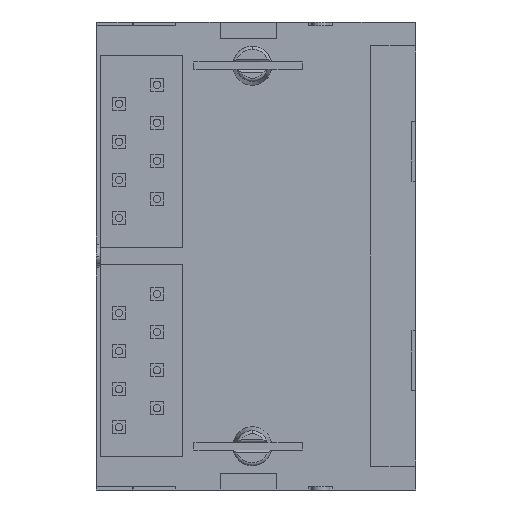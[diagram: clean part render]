
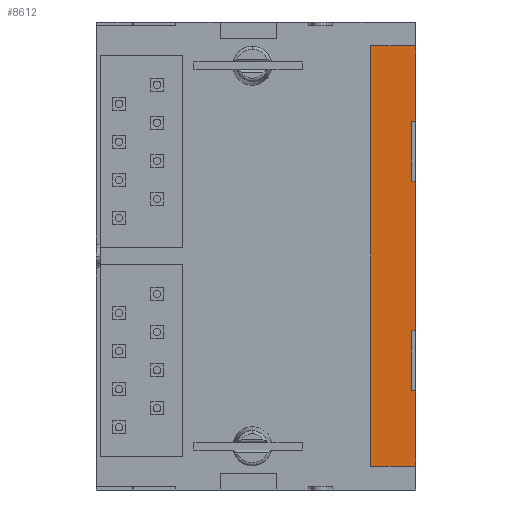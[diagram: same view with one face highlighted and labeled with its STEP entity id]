
A CAD part, front view. The second image highlights one B-rep face of the part: STEP entity #8612.
In plain terms, the highlighted planar face has unit normal (0, -1, 0).
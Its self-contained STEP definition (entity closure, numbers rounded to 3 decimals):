
#327 = EDGE_CURVE ( 'NONE', #3181, #2554, #5813, .T. ) ;
#352 = EDGE_CURVE ( 'NONE', #1021, #7065, #9004, .T. ) ;
#427 = VECTOR ( 'NONE', #8823, 1000. ) ;
#624 = VECTOR ( 'NONE', #8863, 1000. ) ;
#820 = ORIENTED_EDGE ( 'NONE', *, *, #352, .T. ) ;
#885 = DIRECTION ( 'NONE',  ( 0., 0., -1. ) ) ;
#1021 = VERTEX_POINT ( 'NONE', #2562 ) ;
#1058 = DIRECTION ( 'NONE',  ( 1., 0., 0. ) ) ;
#1123 = EDGE_CURVE ( 'NONE', #7654, #4940, #9013, .T. ) ;
#1142 = EDGE_LOOP ( 'NONE', ( #6794, #1157, #8067, #9461, #2023, #9902, #3716, #3627, #9170, #820, #8906, #10234 ) ) ;
#1157 = ORIENTED_EDGE ( 'NONE', *, *, #1123, .T. ) ;
#1295 = CARTESIAN_POINT ( 'NONE',  ( 11.609, -6.235, 4.985 ) ) ;
#1314 = LINE ( 'NONE', #8516, #1733 ) ;
#1368 = DIRECTION ( 'NONE',  ( 0., 0., -1. ) ) ;
#1657 = CARTESIAN_POINT ( 'NONE',  ( 11.609, -6.235, 8.985 ) ) ;
#1702 = DIRECTION ( 'NONE',  ( 1., 0., 0. ) ) ;
#1705 = VERTEX_POINT ( 'NONE', #4471 ) ;
#1733 = VECTOR ( 'NONE', #6991, 1000. ) ;
#1884 = VECTOR ( 'NONE', #8195, 1000. ) ;
#2023 = ORIENTED_EDGE ( 'NONE', *, *, #7956, .F. ) ;
#2152 = LINE ( 'NONE', #8103, #9984 ) ;
#2191 = CARTESIAN_POINT ( 'NONE',  ( 8.849, -6.235, 14.02 ) ) ;
#2223 = EDGE_CURVE ( 'NONE', #1705, #3000, #8912, .T. ) ;
#2264 = EDGE_CURVE ( 'NONE', #1021, #9612, #3061, .T. ) ;
#2554 = VERTEX_POINT ( 'NONE', #9052 ) ;
#2562 = CARTESIAN_POINT ( 'NONE',  ( 11.609, -6.235, -4.985 ) ) ;
#2609 = CARTESIAN_POINT ( 'NONE',  ( 11.609, -6.235, 4.985 ) ) ;
#2661 = CARTESIAN_POINT ( 'NONE',  ( 11.609, -6.235, -4.985 ) ) ;
#2980 = CARTESIAN_POINT ( 'NONE',  ( 11.849, -6.235, 15.62 ) ) ;
#3000 = VERTEX_POINT ( 'NONE', #8985 ) ;
#3018 = LINE ( 'NONE', #3718, #427 ) ;
#3061 = LINE ( 'NONE', #6328, #624 ) ;
#3181 = VERTEX_POINT ( 'NONE', #1295 ) ;
#3221 = CARTESIAN_POINT ( 'NONE',  ( 8.849, -6.235, -14.02 ) ) ;
#3627 = ORIENTED_EDGE ( 'NONE', *, *, #5298, .F. ) ;
#3716 = ORIENTED_EDGE ( 'NONE', *, *, #2223, .F. ) ;
#3718 = CARTESIAN_POINT ( 'NONE',  ( 8.849, -6.235, -15.62 ) ) ;
#3738 = LINE ( 'NONE', #6357, #9407 ) ;
#3886 = DIRECTION ( 'NONE',  ( 1., 0., 0. ) ) ;
#3898 = VERTEX_POINT ( 'NONE', #8623 ) ;
#4016 = DIRECTION ( 'NONE',  ( -1., 0., 0. ) ) ;
#4025 = EDGE_CURVE ( 'NONE', #2554, #7065, #9852, .T. ) ;
#4151 = CARTESIAN_POINT ( 'NONE',  ( 11.609, -6.235, 8.985 ) ) ;
#4165 = CARTESIAN_POINT ( 'NONE',  ( 11.849, -6.235, 14.02 ) ) ;
#4471 = CARTESIAN_POINT ( 'NONE',  ( 11.849, -6.235, -8.985 ) ) ;
#4690 = CARTESIAN_POINT ( 'NONE',  ( -9.451, -6.235, 15.62 ) ) ;
#4792 = FACE_OUTER_BOUND ( 'NONE', #1142, .T. ) ;
#4940 = VERTEX_POINT ( 'NONE', #10216 ) ;
#5298 = EDGE_CURVE ( 'NONE', #9612, #1705, #3738, .T. ) ;
#5524 = VECTOR ( 'NONE', #1368, 1000. ) ;
#5734 = CARTESIAN_POINT ( 'NONE',  ( 11.849, -6.235, 15.62 ) ) ;
#5768 = LINE ( 'NONE', #4165, #8455 ) ;
#5813 = LINE ( 'NONE', #2609, #5983 ) ;
#5983 = VECTOR ( 'NONE', #1702, 1000. ) ;
#6255 = VECTOR ( 'NONE', #885, 1000. ) ;
#6328 = CARTESIAN_POINT ( 'NONE',  ( 11.609, -6.235, -4.985 ) ) ;
#6357 = CARTESIAN_POINT ( 'NONE',  ( 11.609, -6.235, -8.985 ) ) ;
#6697 = EDGE_CURVE ( 'NONE', #3000, #10163, #2152, .T. ) ;
#6794 = ORIENTED_EDGE ( 'NONE', *, *, #10525, .F. ) ;
#6903 = CARTESIAN_POINT ( 'NONE',  ( 11.849, -6.235, -4.985 ) ) ;
#6991 = DIRECTION ( 'NONE',  ( 0., 0., -1. ) ) ;
#7065 = VERTEX_POINT ( 'NONE', #6903 ) ;
#7287 = EDGE_CURVE ( 'NONE', #9832, #3898, #5768, .T. ) ;
#7628 = EDGE_CURVE ( 'NONE', #3898, #4940, #10451, .T. ) ;
#7654 = VERTEX_POINT ( 'NONE', #4151 ) ;
#7956 = EDGE_CURVE ( 'NONE', #10163, #9832, #3018, .T. ) ;
#7967 = DIRECTION ( 'NONE',  ( 0., 1., 0. ) ) ;
#8067 = ORIENTED_EDGE ( 'NONE', *, *, #7628, .F. ) ;
#8103 = CARTESIAN_POINT ( 'NONE',  ( 11.849, -6.235, -14.02 ) ) ;
#8195 = DIRECTION ( 'NONE',  ( 1., 0., 0. ) ) ;
#8289 = AXIS2_PLACEMENT_3D ( 'NONE', #4690, #7967, #3886 ) ;
#8455 = VECTOR ( 'NONE', #9060, 1000. ) ;
#8516 = CARTESIAN_POINT ( 'NONE',  ( 11.609, -6.235, 8.985 ) ) ;
#8612 = ADVANCED_FACE ( 'NONE', ( #4792 ), #8779, .F. ) ;
#8623 = CARTESIAN_POINT ( 'NONE',  ( 11.849, -6.235, 14.02 ) ) ;
#8779 = PLANE ( 'NONE',  #8289 ) ;
#8823 = DIRECTION ( 'NONE',  ( 0., 0., 1. ) ) ;
#8863 = DIRECTION ( 'NONE',  ( 0., 0., -1. ) ) ;
#8906 = ORIENTED_EDGE ( 'NONE', *, *, #4025, .F. ) ;
#8912 = LINE ( 'NONE', #5734, #10398 ) ;
#8985 = CARTESIAN_POINT ( 'NONE',  ( 11.849, -6.235, -14.02 ) ) ;
#9004 = LINE ( 'NONE', #2661, #1884 ) ;
#9013 = LINE ( 'NONE', #1657, #9945 ) ;
#9052 = CARTESIAN_POINT ( 'NONE',  ( 11.849, -6.235, 4.985 ) ) ;
#9060 = DIRECTION ( 'NONE',  ( 1., 0., 0. ) ) ;
#9170 = ORIENTED_EDGE ( 'NONE', *, *, #2264, .F. ) ;
#9407 = VECTOR ( 'NONE', #10509, 1000. ) ;
#9461 = ORIENTED_EDGE ( 'NONE', *, *, #7287, .F. ) ;
#9612 = VERTEX_POINT ( 'NONE', #10144 ) ;
#9802 = CARTESIAN_POINT ( 'NONE',  ( 11.849, -6.235, 15.62 ) ) ;
#9832 = VERTEX_POINT ( 'NONE', #2191 ) ;
#9852 = LINE ( 'NONE', #9802, #6255 ) ;
#9902 = ORIENTED_EDGE ( 'NONE', *, *, #6697, .F. ) ;
#9945 = VECTOR ( 'NONE', #1058, 1000. ) ;
#9984 = VECTOR ( 'NONE', #4016, 1000. ) ;
#10144 = CARTESIAN_POINT ( 'NONE',  ( 11.609, -6.235, -8.985 ) ) ;
#10163 = VERTEX_POINT ( 'NONE', #3221 ) ;
#10216 = CARTESIAN_POINT ( 'NONE',  ( 11.849, -6.235, 8.985 ) ) ;
#10234 = ORIENTED_EDGE ( 'NONE', *, *, #327, .F. ) ;
#10398 = VECTOR ( 'NONE', #10534, 1000. ) ;
#10451 = LINE ( 'NONE', #2980, #5524 ) ;
#10509 = DIRECTION ( 'NONE',  ( 1., 0., 0. ) ) ;
#10525 = EDGE_CURVE ( 'NONE', #7654, #3181, #1314, .T. ) ;
#10534 = DIRECTION ( 'NONE',  ( 0., 0., -1. ) ) ;
